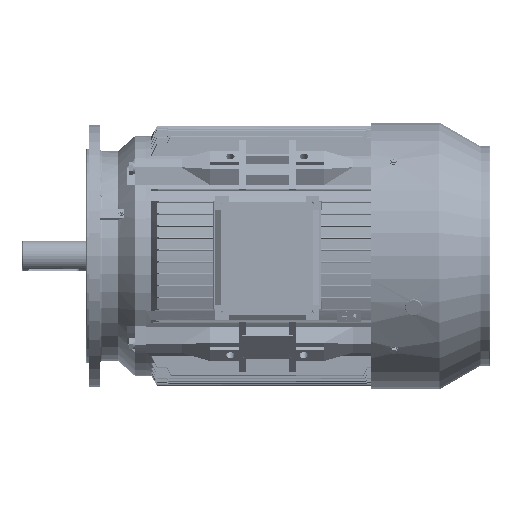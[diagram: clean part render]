
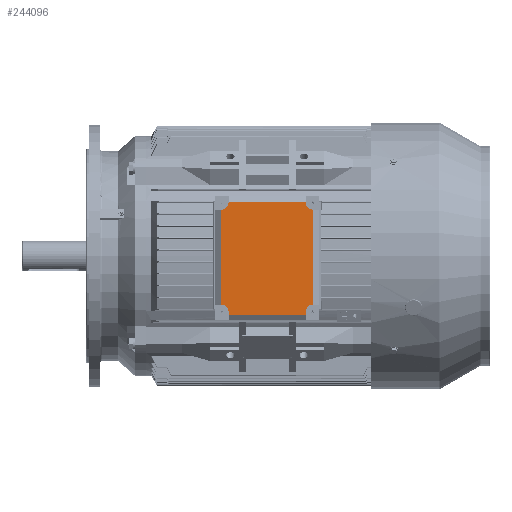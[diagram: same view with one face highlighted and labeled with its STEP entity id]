
A CAD part, top view. The second image highlights one B-rep face of the part: STEP entity #244096.
In plain terms, the highlighted planar face has unit normal (0, 0, 1).
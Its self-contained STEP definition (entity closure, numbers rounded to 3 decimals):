
#101798 = CARTESIAN_POINT ( 'NONE',  ( -130., -109., 16. ) ) ;
#102910 = DIRECTION ( 'NONE',  ( 1., 0., 0. ) ) ;
#102911 = DIRECTION ( 'NONE',  ( 0., 0., 1. ) ) ;
#105846 = CARTESIAN_POINT ( 'NONE',  ( 97., 97., 16. ) ) ;
#105848 = DIRECTION ( 'NONE',  ( 0., -1., 0. ) ) ;
#105850 = VECTOR ( 'NONE', #105848, 1000. ) ;
#105852 = CARTESIAN_POINT ( 'NONE',  ( 97., 109., 16. ) ) ;
#105856 = LINE ( 'NONE', #105852, #105850 ) ;
#106043 = DIRECTION ( 'NONE',  ( 1., 0., 0. ) ) ;
#106046 = VECTOR ( 'NONE', #106043, 1000. ) ;
#106048 = CARTESIAN_POINT ( 'NONE',  ( -130., 81., 16. ) ) ;
#106050 = LINE ( 'NONE', #106048, #106046 ) ;
#106080 = CARTESIAN_POINT ( 'NONE',  ( -117., 81., 16. ) ) ;
#106086 = DIRECTION ( 'NONE',  ( -1., 0., 0. ) ) ;
#106090 = DIRECTION ( 'NONE',  ( 0., 0., 1. ) ) ;
#106094 = CARTESIAN_POINT ( 'NONE',  ( -117., 96., 16. ) ) ;
#106096 = AXIS2_PLACEMENT_3D ( 'NONE', #106094, #106090, #106086 ) ;
#106116 = CIRCLE ( 'NONE', #106096, 15. ) ;
#106133 = CARTESIAN_POINT ( 'NONE',  ( -102., 96., 16. ) ) ;
#106153 = DIRECTION ( 'NONE',  ( 0., 1., 0. ) ) ;
#106155 = VECTOR ( 'NONE', #106153, 1000. ) ;
#106158 = CARTESIAN_POINT ( 'NONE',  ( -102., 109., 16. ) ) ;
#106161 = LINE ( 'NONE', #106158, #106155 ) ;
#106181 = AXIS2_PLACEMENT_3D ( 'NONE', #101798, #102911, #102910 ) ;
#106184 = PLANE ( 'NONE',  #106181 ) ;
#106198 = FACE_OUTER_BOUND ( 'NONE', #244099, .T. ) ;
#106305 = DIRECTION ( 'NONE',  ( 0., -1., 0. ) ) ;
#106307 = VECTOR ( 'NONE', #106305, 1000. ) ;
#106308 = CARTESIAN_POINT ( 'NONE',  ( -118., -81., 16. ) ) ;
#106310 = LINE ( 'NONE', #106308, #106307 ) ;
#106321 = CARTESIAN_POINT ( 'NONE',  ( -118., 81., 16. ) ) ;
#106324 = CARTESIAN_POINT ( 'NONE',  ( -130., -81., 16. ) ) ;
#106326 = LINE ( 'NONE', #106324, #106590 ) ;
#106361 = CARTESIAN_POINT ( 'NONE',  ( -118., -81., 16. ) ) ;
#106364 = DIRECTION ( 'NONE',  ( -1., 0., 0. ) ) ;
#106367 = DIRECTION ( 'NONE',  ( 0., 0., 1. ) ) ;
#106370 = CARTESIAN_POINT ( 'NONE',  ( 112., 96., 16. ) ) ;
#106373 = AXIS2_PLACEMENT_3D ( 'NONE', #106370, #106367, #106364 ) ;
#106374 = CIRCLE ( 'NONE', #106373, 15. ) ;
#106387 = CARTESIAN_POINT ( 'NONE',  ( 112., 81., 16. ) ) ;
#106391 = DIRECTION ( 'NONE',  ( 1., 0., 0. ) ) ;
#106393 = VECTOR ( 'NONE', #106391, 1000. ) ;
#106397 = CARTESIAN_POINT ( 'NONE',  ( 130., 81., 16. ) ) ;
#106398 = LINE ( 'NONE', #106397, #106393 ) ;
#106458 = LINE ( 'NONE', #106734, #106731 ) ;
#106473 = CARTESIAN_POINT ( 'NONE',  ( 97., -97., 16. ) ) ;
#106475 = DIRECTION ( 'NONE',  ( 1., 0., 0. ) ) ;
#106477 = VECTOR ( 'NONE', #106475, 1000. ) ;
#106478 = CARTESIAN_POINT ( 'NONE',  ( 97., -97., 16. ) ) ;
#106481 = LINE ( 'NONE', #106478, #106477 ) ;
#106492 = CARTESIAN_POINT ( 'NONE',  ( -102., -97., 16. ) ) ;
#106522 = DIRECTION ( 'NONE',  ( 0., 1., 0. ) ) ;
#106523 = VECTOR ( 'NONE', #106522, 1000. ) ;
#106525 = CARTESIAN_POINT ( 'NONE',  ( -102., -109., 16. ) ) ;
#106526 = LINE ( 'NONE', #106525, #106523 ) ;
#106537 = CARTESIAN_POINT ( 'NONE',  ( -102., -96., 16. ) ) ;
#106541 = DIRECTION ( 'NONE',  ( -1., 0., 0. ) ) ;
#106544 = DIRECTION ( 'NONE',  ( 0., 0., 1. ) ) ;
#106545 = CARTESIAN_POINT ( 'NONE',  ( -117., -96., 16. ) ) ;
#106548 = AXIS2_PLACEMENT_3D ( 'NONE', #106545, #106544, #106541 ) ;
#106549 = CIRCLE ( 'NONE', #106548, 15. ) ;
#106584 = CARTESIAN_POINT ( 'NONE',  ( -117., -81., 16. ) ) ;
#106589 = DIRECTION ( 'NONE',  ( -1., 0., 0. ) ) ;
#106590 = VECTOR ( 'NONE', #106589, 1000. ) ;
#106688 = CARTESIAN_POINT ( 'NONE',  ( -102., 97., 16. ) ) ;
#106692 = DIRECTION ( 'NONE',  ( -1., 0., 0. ) ) ;
#106695 = VECTOR ( 'NONE', #106692, 1000. ) ;
#106697 = CARTESIAN_POINT ( 'NONE',  ( -102., 97., 16. ) ) ;
#106700 = LINE ( 'NONE', #106697, #106695 ) ;
#106727 = CARTESIAN_POINT ( 'NONE',  ( 97., 96., 16. ) ) ;
#106729 = DIRECTION ( 'NONE',  ( 0., -1., 0. ) ) ;
#106731 = VECTOR ( 'NONE', #106729, 1000. ) ;
#106734 = CARTESIAN_POINT ( 'NONE',  ( 97., -109., 16. ) ) ;
#106754 = CARTESIAN_POINT ( 'NONE',  ( 97., -96., 16. ) ) ;
#106910 = CARTESIAN_POINT ( 'NONE',  ( 118., 81., 16. ) ) ;
#106916 = DIRECTION ( 'NONE',  ( 0., 1., 0. ) ) ;
#106918 = VECTOR ( 'NONE', #106916, 1000. ) ;
#106921 = CARTESIAN_POINT ( 'NONE',  ( 118., 81., 16. ) ) ;
#106924 = LINE ( 'NONE', #106921, #106918 ) ;
#106951 = CARTESIAN_POINT ( 'NONE',  ( 118., -81., 16. ) ) ;
#106954 = DIRECTION ( 'NONE',  ( -1., 0., 0. ) ) ;
#106956 = VECTOR ( 'NONE', #106954, 1000. ) ;
#106958 = CARTESIAN_POINT ( 'NONE',  ( 130., -81., 16. ) ) ;
#106961 = LINE ( 'NONE', #106958, #106956 ) ;
#106972 = CARTESIAN_POINT ( 'NONE',  ( 112., -81., 16. ) ) ;
#106977 = DIRECTION ( 'NONE',  ( -1., 0., 0. ) ) ;
#106981 = DIRECTION ( 'NONE',  ( 0., 0., 1. ) ) ;
#106984 = CARTESIAN_POINT ( 'NONE',  ( 112., -96., 16. ) ) ;
#106986 = AXIS2_PLACEMENT_3D ( 'NONE', #106984, #106981, #106977 ) ;
#106987 = CIRCLE ( 'NONE', #106986, 15. ) ;
#243896 = ORIENTED_EDGE ( 'NONE', *, *, #243898, .F. ) ;
#243898 = EDGE_CURVE ( 'NONE', #243900, #244204, #105856, .T. ) ;
#243900 = VERTEX_POINT ( 'NONE', #105846 ) ;
#243997 = ORIENTED_EDGE ( 'NONE', *, *, #244004, .F. ) ;
#244004 = EDGE_CURVE ( 'NONE', #244011, #244214, #106161, .T. ) ;
#244011 = VERTEX_POINT ( 'NONE', #106133 ) ;
#244021 = ORIENTED_EDGE ( 'NONE', *, *, #244023, .F. ) ;
#244023 = EDGE_CURVE ( 'NONE', #244027, #244011, #106116, .T. ) ;
#244027 = VERTEX_POINT ( 'NONE', #106080 ) ;
#244033 = ORIENTED_EDGE ( 'NONE', *, *, #244041, .F. ) ;
#244041 = EDGE_CURVE ( 'NONE', #244043, #244027, #106050, .T. ) ;
#244043 = VERTEX_POINT ( 'NONE', #106321 ) ;
#244047 = ORIENTED_EDGE ( 'NONE', *, *, #244050, .T. ) ;
#244050 = EDGE_CURVE ( 'NONE', #244043, #244135, #106310, .T. ) ;
#244096 = ADVANCED_FACE ( 'NONE', ( #106198 ), #106184, .T. ) ;
#244099 = EDGE_LOOP ( 'NONE', ( #243896, #244207, #243997, #244021, #244033, #244047, #244148, #244160, #244170, #244184, #244198, #244283, #244300, #244312, #244110, #244127 ) ) ;
#244110 = ORIENTED_EDGE ( 'NONE', *, *, #244122, .F. ) ;
#244122 = EDGE_CURVE ( 'NONE', #244125, #244319, #106398, .T. ) ;
#244125 = VERTEX_POINT ( 'NONE', #106387 ) ;
#244127 = ORIENTED_EDGE ( 'NONE', *, *, #244129, .F. ) ;
#244129 = EDGE_CURVE ( 'NONE', #244204, #244125, #106374, .T. ) ;
#244135 = VERTEX_POINT ( 'NONE', #106361 ) ;
#244148 = ORIENTED_EDGE ( 'NONE', *, *, #244152, .F. ) ;
#244152 = EDGE_CURVE ( 'NONE', #244154, #244135, #106326, .T. ) ;
#244154 = VERTEX_POINT ( 'NONE', #106584 ) ;
#244160 = ORIENTED_EDGE ( 'NONE', *, *, #244164, .F. ) ;
#244164 = EDGE_CURVE ( 'NONE', #244167, #244154, #106549, .T. ) ;
#244167 = VERTEX_POINT ( 'NONE', #106537 ) ;
#244170 = ORIENTED_EDGE ( 'NONE', *, *, #244176, .F. ) ;
#244176 = EDGE_CURVE ( 'NONE', #244178, #244167, #106526, .T. ) ;
#244178 = VERTEX_POINT ( 'NONE', #106492 ) ;
#244184 = ORIENTED_EDGE ( 'NONE', *, *, #244190, .T. ) ;
#244190 = EDGE_CURVE ( 'NONE', #244178, #244192, #106481, .T. ) ;
#244192 = VERTEX_POINT ( 'NONE', #106473 ) ;
#244198 = ORIENTED_EDGE ( 'NONE', *, *, #244200, .F. ) ;
#244200 = EDGE_CURVE ( 'NONE', #244276, #244192, #106458, .T. ) ;
#244204 = VERTEX_POINT ( 'NONE', #106727 ) ;
#244207 = ORIENTED_EDGE ( 'NONE', *, *, #244210, .T. ) ;
#244210 = EDGE_CURVE ( 'NONE', #243900, #244214, #106700, .T. ) ;
#244214 = VERTEX_POINT ( 'NONE', #106688 ) ;
#244276 = VERTEX_POINT ( 'NONE', #106754 ) ;
#244283 = ORIENTED_EDGE ( 'NONE', *, *, #244290, .F. ) ;
#244290 = EDGE_CURVE ( 'NONE', #244293, #244276, #106987, .T. ) ;
#244293 = VERTEX_POINT ( 'NONE', #106972 ) ;
#244300 = ORIENTED_EDGE ( 'NONE', *, *, #244303, .F. ) ;
#244303 = EDGE_CURVE ( 'NONE', #244307, #244293, #106961, .T. ) ;
#244307 = VERTEX_POINT ( 'NONE', #106951 ) ;
#244312 = ORIENTED_EDGE ( 'NONE', *, *, #244316, .T. ) ;
#244316 = EDGE_CURVE ( 'NONE', #244307, #244319, #106924, .T. ) ;
#244319 = VERTEX_POINT ( 'NONE', #106910 ) ;
